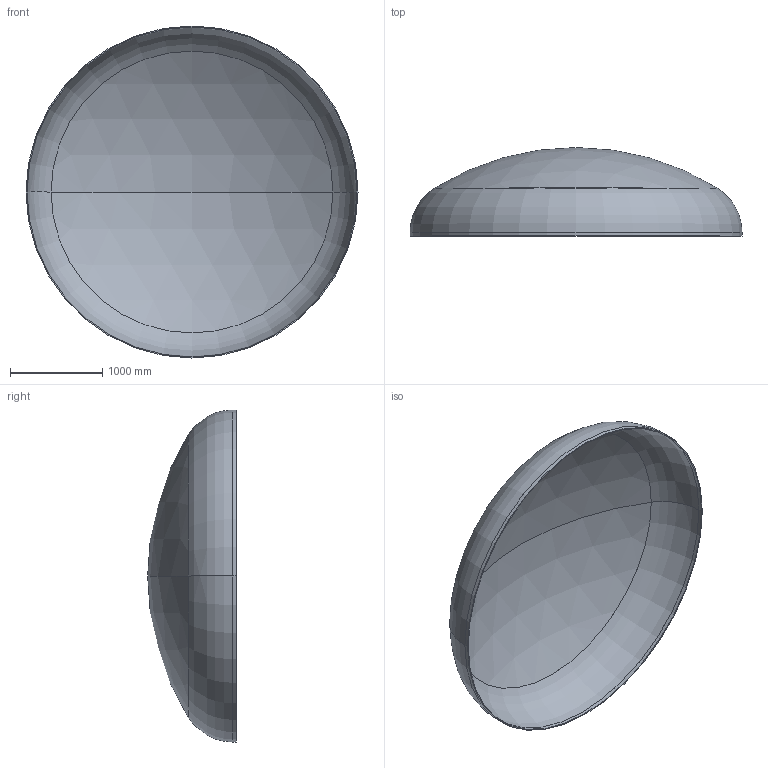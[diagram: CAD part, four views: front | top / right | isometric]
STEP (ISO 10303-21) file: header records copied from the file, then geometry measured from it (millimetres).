
FILE_DESCRIPTION (( 'STEP AP203' ), '1' );
FILE_NAME ('DIN 28013 Korbbogenform_-_Boden DIN 28013 - 3600 x 40 - I - s=11.step', '2016-07-01T20:05:09', ( '' ), ( '' ), 'SwSTEP 2.0', 'SolidWorks 2013', '' );
FILE_SCHEMA (( 'CONFIG_CONTROL_DESIGN' ));
Length unit declared in the file: millimetre
Products named in the file (1): DIN 28013 Korbbogenform_-_Boden DIN 28013 - 3600 x 40 - I - s=11
Bounding box: 3600 x 960.5 x 3600 mm (x, y, z)
Volume: 159450839.3 mm3; surface area: 29115330.3 mm2
Topology: 1 solids, 1 shells, 13 faces, 24 edges, 14 vertices
Faces by surface type: torus 4, cylinder 4, sphere 4, plane 1
Entity records: 407 total; most frequent: DIRECTION 72, CARTESIAN_POINT 52, ORIENTED_EDGE 48, AXIS2_PLACEMENT_3D 34, EDGE_CURVE 24, CIRCLE 20, VERTEX_POINT 14, EDGE_LOOP 14
